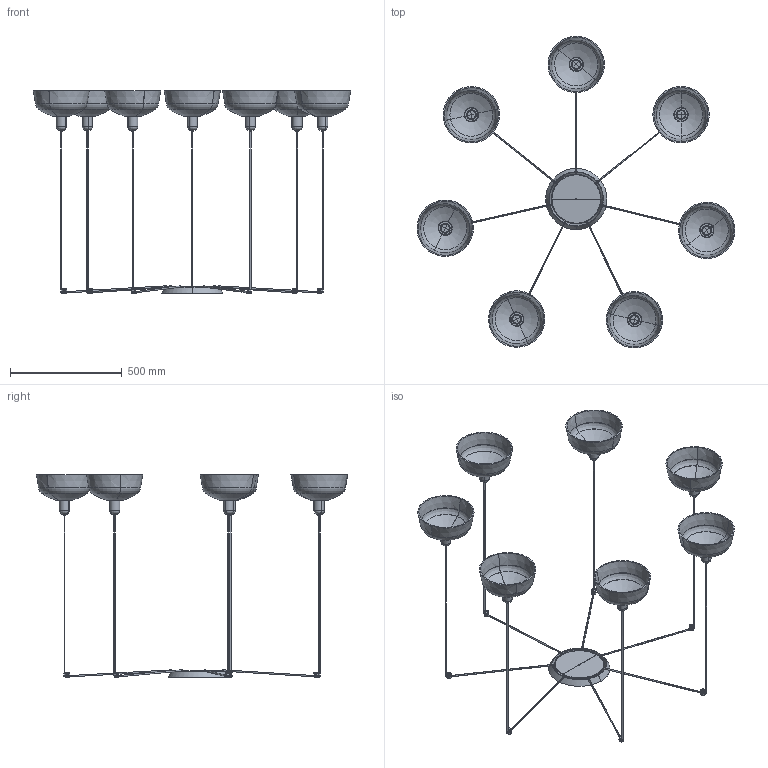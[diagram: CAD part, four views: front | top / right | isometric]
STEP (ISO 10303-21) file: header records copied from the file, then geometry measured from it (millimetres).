
FILE_DESCRIPTION(/* description */ (''),/* implementation_level */ '2;1');
FILE_NAME(/* name */ '20340-116-7L.step',/* time_stamp */ '2024-05-30T11:59:35+02:00',/* author */ ('RenataManzini'),/* organization */ (''),/* preprocessor_version */ 'ST-DEVELOPER v20',/* originating_system */ 'AutoCAD Mechanical',/* authorisation */ '');
FILE_SCHEMA (('AUTOMOTIVE_DESIGN { 1 0 10303 214 3 1 1 }'));
Products named in the file (2): Product; TATAWIN_CAN7 - 68603-525872-_3D_
Assembly tree (1 placements, depth 2):
  Product
    TATAWIN_CAN7 - 68603-525872-_3D_
Bounding box: 1419.43 x 1391.98 x 906.18 mm (x, y, z)
Volume: 4578893.4 mm3; surface area: 1984195.7 mm2
Topology: 58 solids, 72 shells, 1066 faces, 2396 edges, 1421 vertices
Faces by surface type: cylinder 401, plane 371, torus 144, cone 108, bspline 42
Entity records: 42293 total; most frequent: CARTESIAN_POINT 19290, DIRECTION 4711, ORIENTED_EDGE 4667, EDGE_CURVE 2379, AXIS2_PLACEMENT_3D 1895, VERTEX_POINT 1416, EDGE_LOOP 1144, FACE_OUTER_BOUND 1066
